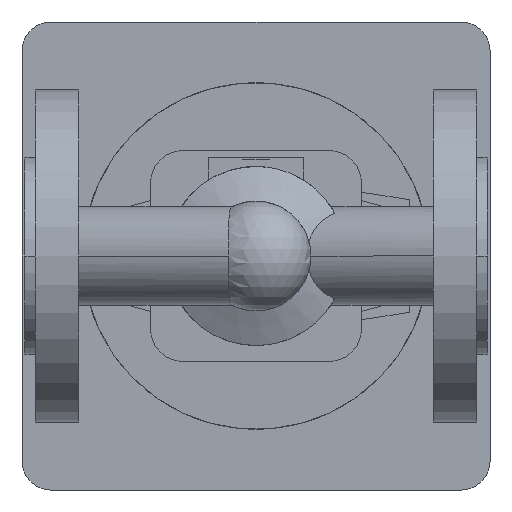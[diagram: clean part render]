
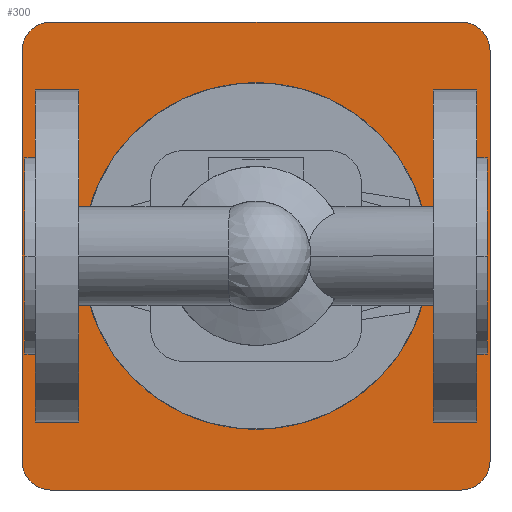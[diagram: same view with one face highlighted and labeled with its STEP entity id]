
A CAD part, front view. The second image highlights one B-rep face of the part: STEP entity #300.
In plain terms, the highlighted planar face has unit normal (0, -1, 0).
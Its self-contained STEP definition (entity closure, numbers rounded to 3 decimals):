
#300 = ADVANCED_FACE( '', ( #719, #720 ), #721, .F. );
#719 = FACE_OUTER_BOUND( '', #1164, .T. );
#720 = FACE_BOUND( '', #1165, .T. );
#721 = PLANE( '', #1166 );
#1164 = EDGE_LOOP( '', ( #2616, #2617, #2618, #2619, #2620, #2621, #2622, #2623 ) );
#1165 = EDGE_LOOP( '', ( #2624, #2625 ) );
#1166 = AXIS2_PLACEMENT_3D( '', #2626, #2627, #2628 );
#2616 = ORIENTED_EDGE( '', *, *, #3242, .F. );
#2617 = ORIENTED_EDGE( '', *, *, #3243, .F. );
#2618 = ORIENTED_EDGE( '', *, *, #3244, .F. );
#2619 = ORIENTED_EDGE( '', *, *, #3245, .F. );
#2620 = ORIENTED_EDGE( '', *, *, #3246, .F. );
#2621 = ORIENTED_EDGE( '', *, *, #3247, .F. );
#2622 = ORIENTED_EDGE( '', *, *, #3248, .F. );
#2623 = ORIENTED_EDGE( '', *, *, #3249, .F. );
#2624 = ORIENTED_EDGE( '', *, *, #3157, .F. );
#2625 = ORIENTED_EDGE( '', *, *, #3250, .F. );
#2626 = CARTESIAN_POINT( '', ( 80., 591., 0. ) );
#2627 = DIRECTION( '', ( 0., 1., 0. ) );
#2628 = DIRECTION( '', ( 0., 0., 1. ) );
#3157 = EDGE_CURVE( '', #3894, #3897, #3898, .T. );
#3242 = EDGE_CURVE( '', #4041, #4042, #4043, .T. );
#3243 = EDGE_CURVE( '', #4044, #4041, #4045, .T. );
#3244 = EDGE_CURVE( '', #4046, #4044, #4047, .T. );
#3245 = EDGE_CURVE( '', #4048, #4046, #4049, .T. );
#3246 = EDGE_CURVE( '', #4050, #4048, #4051, .T. );
#3247 = EDGE_CURVE( '', #4052, #4050, #4053, .T. );
#3248 = EDGE_CURVE( '', #4054, #4052, #4055, .T. );
#3249 = EDGE_CURVE( '', #4042, #4054, #4056, .T. );
#3250 = EDGE_CURVE( '', #3897, #3894, #4057, .T. );
#3894 = VERTEX_POINT( '', #5237 );
#3897 = VERTEX_POINT( '', #5241 );
#3898 = CIRCLE( '', #5242, 40. );
#4041 = VERTEX_POINT( '', #5440 );
#4042 = VERTEX_POINT( '', #5441 );
#4043 = CIRCLE( '', #5442, 10. );
#4044 = VERTEX_POINT( '', #5443 );
#4045 = LINE( '', #5444, #5445 );
#4046 = VERTEX_POINT( '', #5446 );
#4047 = CIRCLE( '', #5447, 10. );
#4048 = VERTEX_POINT( '', #5448 );
#4049 = LINE( '', #5449, #5450 );
#4050 = VERTEX_POINT( '', #5451 );
#4051 = CIRCLE( '', #5452, 10. );
#4052 = VERTEX_POINT( '', #5453 );
#4053 = LINE( '', #5454, #5455 );
#4054 = VERTEX_POINT( '', #5456 );
#4055 = CIRCLE( '', #5457, 10. );
#4056 = LINE( '', #5458, #5459 );
#4057 = CIRCLE( '', #5460, 40. );
#5237 = CARTESIAN_POINT( '', ( 40., 591., 0. ) );
#5241 = CARTESIAN_POINT( '', ( 120., 591., 0. ) );
#5242 = AXIS2_PLACEMENT_3D( '', #6186, #6187, #6188 );
#5440 = CARTESIAN_POINT( '', ( -1., 591., 71. ) );
#5441 = CARTESIAN_POINT( '', ( 9., 591., 81. ) );
#5442 = AXIS2_PLACEMENT_3D( '', #6331, #6332, #6333 );
#5443 = CARTESIAN_POINT( '', ( -1., 591., -71. ) );
#5444 = CARTESIAN_POINT( '', ( -1., 591., -71. ) );
#5445 = VECTOR( '', #6334, 1. );
#5446 = CARTESIAN_POINT( '', ( 9., 591., -81. ) );
#5447 = AXIS2_PLACEMENT_3D( '', #6335, #6336, #6337 );
#5448 = CARTESIAN_POINT( '', ( 151., 591., -81. ) );
#5449 = CARTESIAN_POINT( '', ( 151., 591., -81. ) );
#5450 = VECTOR( '', #6338, 1. );
#5451 = CARTESIAN_POINT( '', ( 161., 591., -71. ) );
#5452 = AXIS2_PLACEMENT_3D( '', #6339, #6340, #6341 );
#5453 = CARTESIAN_POINT( '', ( 161., 591., 71. ) );
#5454 = CARTESIAN_POINT( '', ( 161., 591., 71. ) );
#5455 = VECTOR( '', #6342, 1. );
#5456 = CARTESIAN_POINT( '', ( 151., 591., 81. ) );
#5457 = AXIS2_PLACEMENT_3D( '', #6343, #6344, #6345 );
#5458 = CARTESIAN_POINT( '', ( 9., 591., 81. ) );
#5459 = VECTOR( '', #6346, 1. );
#5460 = AXIS2_PLACEMENT_3D( '', #6347, #6348, #6349 );
#6186 = CARTESIAN_POINT( '', ( 80., 591., 0. ) );
#6187 = DIRECTION( '', ( 0., -1., 0. ) );
#6188 = DIRECTION( '', ( -1., 0., 0. ) );
#6331 = CARTESIAN_POINT( '', ( 9., 591., 71. ) );
#6332 = DIRECTION( '', ( 0., 1., 0. ) );
#6333 = DIRECTION( '', ( -1., 0., 0. ) );
#6334 = DIRECTION( '', ( 0., 0., 1. ) );
#6335 = CARTESIAN_POINT( '', ( 9., 591., -71. ) );
#6336 = DIRECTION( '', ( 0., 1., 0. ) );
#6337 = DIRECTION( '', ( 0., 0., -1. ) );
#6338 = DIRECTION( '', ( -1., 0., 0. ) );
#6339 = CARTESIAN_POINT( '', ( 151., 591., -71. ) );
#6340 = DIRECTION( '', ( 0., 1., 0. ) );
#6341 = DIRECTION( '', ( 1., 0., 0. ) );
#6342 = DIRECTION( '', ( 0., 0., -1. ) );
#6343 = CARTESIAN_POINT( '', ( 151., 591., 71. ) );
#6344 = DIRECTION( '', ( 0., 1., 0. ) );
#6345 = DIRECTION( '', ( 0., 0., 1. ) );
#6346 = DIRECTION( '', ( 1., 0., 0. ) );
#6347 = CARTESIAN_POINT( '', ( 80., 591., 0. ) );
#6348 = DIRECTION( '', ( 0., -1., 0. ) );
#6349 = DIRECTION( '', ( -1., 0., 0. ) );
